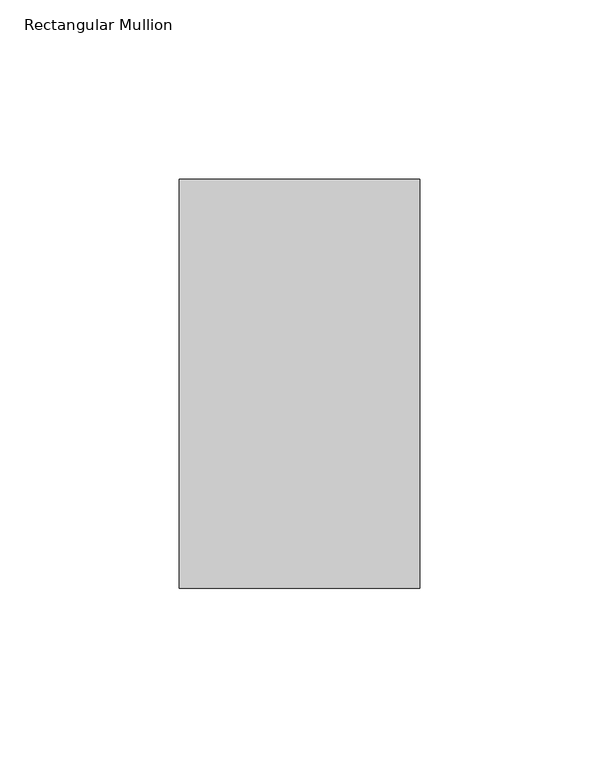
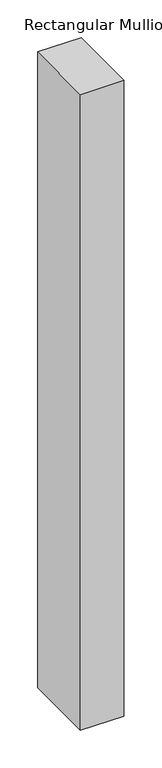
"""IFC4 building model written with IfcOpenShell, lengths in millimetres: member geometry, Rectangular Mullion : 30_hout_midden."""

from ifc_helpers import new_model, si_unit, frame, origin, place, context, project, spatial, polyline, outline, extrude, source, transform, mapped, element, save


def rectangular_mullion_c9114e96(model_context):
    return source(origin(), model_context, "Body", "SweptSolid", [
        extrude(outline(polyline([(33.5, 57.0), (33.5, -57.0), (-33.5, -57.0), (-33.5, 57.0), (33.5, 57.0)])), frame((0.0, 0.0, -1033.3333333), z_axis=(0.0, 0.0, 1.0), x_axis=(1.0, 0.0, 0.0)), (0.0, 0.0, 1.0), 1033.3333333),
    ])


if __name__ == "__main__":
    model = new_model("IFC4")
    model_context = context("Model", 3, world=origin())
    ifc_project = project(units=[si_unit("LENGTHUNIT", "METRE", prefix="MILLI")], contexts=[model_context])
    site = spatial("IfcSite", under=ifc_project)
    building = spatial("IfcBuilding", under=site)
    placement = place(None, origin())
    rectangular_mullion_shape = rectangular_mullion_c9114e96(model_context)
    element("IfcMember", 1, ObjectType="Rectangular Mullion : 30_hout_midden", at=placement, inside=building, context=model_context, shape_type="MappedRepresentation", body=[
        mapped(rectangular_mullion_shape, transform((0.0, 0.0, 0.0), x_axis=(1.0, 0.0, 0.0), y_axis=(0.0, 1.0, 0.0), z_axis=(0.0, 0.0, 1.0))),
    ])
    save(model, "model.ifc")
